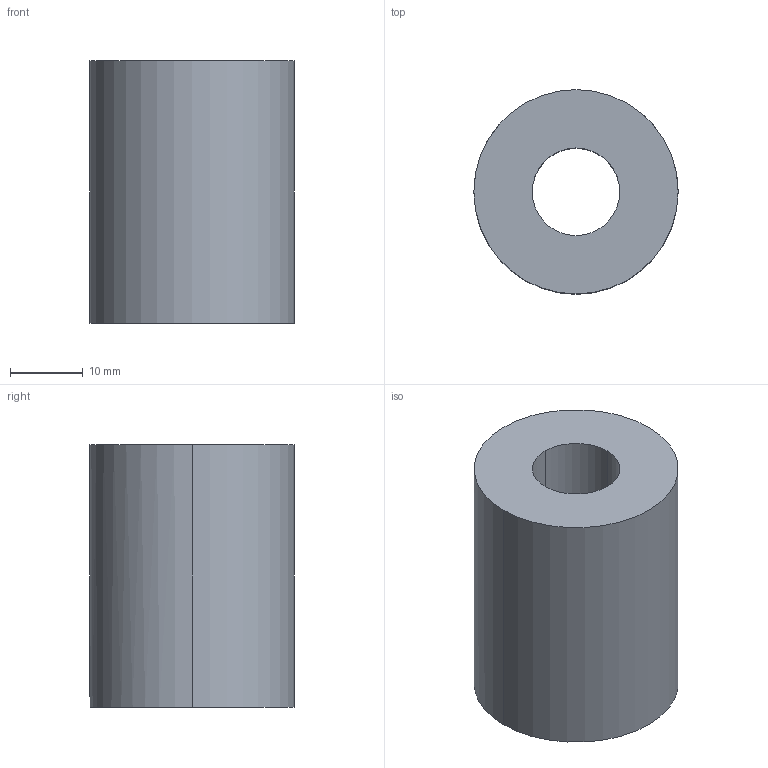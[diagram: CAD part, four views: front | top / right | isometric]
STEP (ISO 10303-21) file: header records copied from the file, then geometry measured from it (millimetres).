
FILE_DESCRIPTION(('CATIA V5 STEP Exchange'),'2;1');
FILE_NAME('C:\Users\wangyangguang\Desktop\奥杰轴套20220512\奥杰轴套\SBS0010116-主驾左支腿前轴套\SBS0010116.stp','2022-05-19T08:30:05+00:00',('none'),('none'),'CATIA Version 5 Release 20 GA (IN-10)','CATIA V5 STEP AP203','none');
FILE_SCHEMA(('CONFIG_CONTROL_DESIGN'));
Length unit declared in the file: millimetre
Products named in the file (1): Part2
Bounding box: 28 x 28 x 36 mm (x, y, z)
Volume: 18095.6 mm3; surface area: 5529.2 mm2
Topology: 1 solids, 1 shells, 8 faces, 18 edges, 12 vertices
Faces by surface type: cylinder 6, plane 2
Entity records: 289 total; most frequent: CARTESIAN_POINT 62, ORIENTED_EDGE 36, DIRECTION 33, AXIS2_PLACEMENT_3D 20, EDGE_CURVE 18, VERTEX_POINT 12, CIRCLE 11, EDGE_LOOP 10
